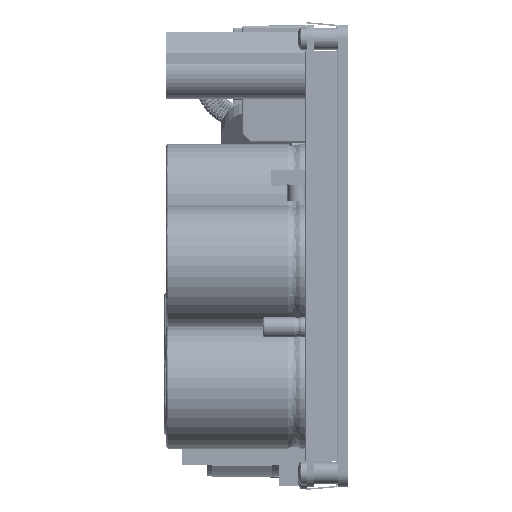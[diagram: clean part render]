
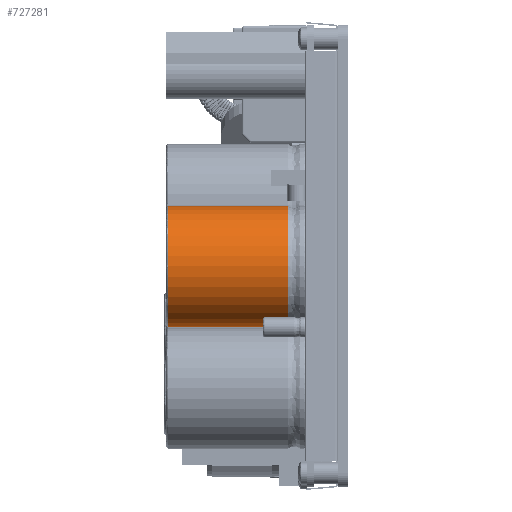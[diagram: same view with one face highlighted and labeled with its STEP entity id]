
A CAD part, left-side view. The second image highlights one B-rep face of the part: STEP entity #727281.
In plain terms, the highlighted cylindrical face has radius 15 mm (diameter 30 mm), a partial arc.
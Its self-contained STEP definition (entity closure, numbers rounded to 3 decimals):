
#23390 = DIRECTION ( 'NONE',  ( 0., 0., -1. ) ) ;
#70041 = VERTEX_POINT ( 'NONE', #200639 ) ;
#70806 = EDGE_CURVE ( 'NONE', #764045, #291399, #614685, .T. ) ;
#101860 = CARTESIAN_POINT ( 'NONE',  ( 12., 41.625, 4.8 ) ) ;
#114713 = CARTESIAN_POINT ( 'NONE',  ( 12., 56.625, 4.8 ) ) ;
#149420 = DIRECTION ( 'NONE',  ( 0., 0., -1. ) ) ;
#172633 = ORIENTED_EDGE ( 'NONE', *, *, #384043, .T. ) ;
#187486 = VERTEX_POINT ( 'NONE', #590046 ) ;
#200639 = CARTESIAN_POINT ( 'NONE',  ( 12., 41.625, 34.5 ) ) ;
#210075 = DIRECTION ( 'NONE',  ( 0., 1., 0. ) ) ;
#215840 = AXIS2_PLACEMENT_3D ( 'NONE', #114713, #362621, #777109 ) ;
#262906 = EDGE_LOOP ( 'NONE', ( #502944, #721559, #172633, #728244 ) ) ;
#291399 = VERTEX_POINT ( 'NONE', #101860 ) ;
#300615 = CYLINDRICAL_SURFACE ( 'NONE', #585750, 15. ) ;
#361998 = LINE ( 'NONE', #704164, #446819 ) ;
#362621 = DIRECTION ( 'NONE',  ( 0., 0., 1. ) ) ;
#384043 = EDGE_CURVE ( 'NONE', #187486, #764045, #361998, .T. ) ;
#412371 = DIRECTION ( 'NONE',  ( 0., 0., -1. ) ) ;
#422301 = EDGE_CURVE ( 'NONE', #70041, #291399, #607482, .T. ) ;
#446819 = VECTOR ( 'NONE', #754667, 1000. ) ;
#502944 = ORIENTED_EDGE ( 'NONE', *, *, #422301, .F. ) ;
#508152 = CARTESIAN_POINT ( 'NONE',  ( 12., 56.625, 35. ) ) ;
#530920 = CARTESIAN_POINT ( 'NONE',  ( 12., 41.625, 35. ) ) ;
#585750 = AXIS2_PLACEMENT_3D ( 'NONE', #508152, #149420, #210075 ) ;
#588467 = VECTOR ( 'NONE', #412371, 1000. ) ;
#590046 = CARTESIAN_POINT ( 'NONE',  ( 12., 71.625, 34.5 ) ) ;
#607482 = LINE ( 'NONE', #530920, #588467 ) ;
#614685 = CIRCLE ( 'NONE', #215840, 15. ) ;
#622407 = DIRECTION ( 'NONE',  ( 0., 1., 0. ) ) ;
#639342 = CIRCLE ( 'NONE', #750577, 15. ) ;
#647127 = EDGE_CURVE ( 'NONE', #70041, #187486, #639342, .T. ) ;
#649764 = FACE_OUTER_BOUND ( 'NONE', #262906, .T. ) ;
#680572 = CARTESIAN_POINT ( 'NONE',  ( 12., 56.625, 34.5 ) ) ;
#704164 = CARTESIAN_POINT ( 'NONE',  ( 12., 71.625, 35. ) ) ;
#709667 = CARTESIAN_POINT ( 'NONE',  ( 12., 71.625, 4.8 ) ) ;
#721559 = ORIENTED_EDGE ( 'NONE', *, *, #647127, .T. ) ;
#727281 = ADVANCED_FACE ( 'NONE', ( #649764 ), #300615, .T. ) ;
#728244 = ORIENTED_EDGE ( 'NONE', *, *, #70806, .T. ) ;
#750577 = AXIS2_PLACEMENT_3D ( 'NONE', #680572, #23390, #622407 ) ;
#754667 = DIRECTION ( 'NONE',  ( 0., 0., -1. ) ) ;
#764045 = VERTEX_POINT ( 'NONE', #709667 ) ;
#777109 = DIRECTION ( 'NONE',  ( 0., 1., 0. ) ) ;
